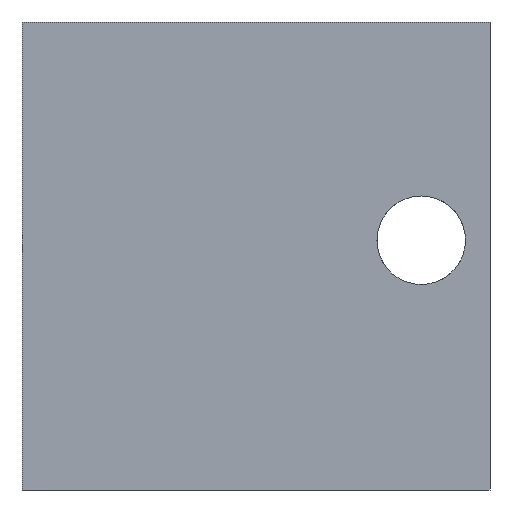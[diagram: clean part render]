
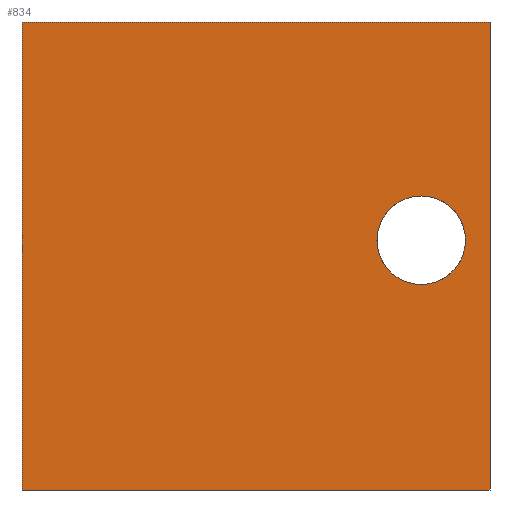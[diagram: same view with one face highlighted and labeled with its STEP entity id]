
A CAD part, left-side view. The second image highlights one B-rep face of the part: STEP entity #834.
In plain terms, the highlighted planar face has unit normal (-1, 0, 0).
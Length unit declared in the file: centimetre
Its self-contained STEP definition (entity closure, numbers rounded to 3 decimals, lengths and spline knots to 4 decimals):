
#18 = ORIENTED_EDGE ( 'NONE', *, *, #1486, .T. ) ;
#77 = CIRCLE ( 'NONE', #1410, 94.5798 ) ;
#129 = CARTESIAN_POINT ( 'NONE',  ( 0., 1000., 0. ) ) ;
#153 = CARTESIAN_POINT ( 'NONE',  ( 0., 1000., 1000. ) ) ;
#160 = FACE_OUTER_BOUND ( 'NONE', #1267, .T. ) ;
#169 = CARTESIAN_POINT ( 'NONE',  ( 0., 1000., 1000. ) ) ;
#205 = ORIENTED_EDGE ( 'NONE', *, *, #285, .F. ) ;
#285 = EDGE_CURVE ( 'NONE', #1182, #423, #1030, .T. ) ;
#340 = CARTESIAN_POINT ( 'NONE',  ( 0., 1000., 1000. ) ) ;
#344 = VERTEX_POINT ( 'NONE', #545 ) ;
#377 = VECTOR ( 'NONE', #1342, 100. ) ;
#423 = VERTEX_POINT ( 'NONE', #1390 ) ;
#439 = DIRECTION ( 'NONE',  ( 0., -1., 0. ) ) ;
#448 = VECTOR ( 'NONE', #908, 100. ) ;
#456 = EDGE_CURVE ( 'NONE', #1097, #1370, #77, .T. ) ;
#470 = CARTESIAN_POINT ( 'NONE',  ( 0., 1000., 1000. ) ) ;
#487 = FACE_BOUND ( 'NONE', #1024, .T. ) ;
#527 = VECTOR ( 'NONE', #626, 100. ) ;
#534 = CARTESIAN_POINT ( 'NONE',  ( 0., 0., 1000. ) ) ;
#545 = CARTESIAN_POINT ( 'NONE',  ( 0., 1000., 0. ) ) ;
#548 = EDGE_CURVE ( 'NONE', #1370, #1097, #602, .T. ) ;
#590 = CARTESIAN_POINT ( 'NONE',  ( 0., 146.9498, 628.2415 ) ) ;
#596 = ORIENTED_EDGE ( 'NONE', *, *, #738, .T. ) ;
#602 = CIRCLE ( 'NONE', #1461, 94.5798 ) ;
#606 = EDGE_CURVE ( 'NONE', #423, #1321, #1459, .T. ) ;
#617 = PLANE ( 'NONE',  #1406 ) ;
#626 = DIRECTION ( 'NONE',  ( 0., 0., -1. ) ) ;
#656 = DIRECTION ( 'NONE',  ( 1., 0., 0. ) ) ;
#738 = EDGE_CURVE ( 'NONE', #344, #1321, #794, .T. ) ;
#775 = CARTESIAN_POINT ( 'NONE',  ( 0., 146.9498, 533.6617 ) ) ;
#794 = LINE ( 'NONE', #129, #448 ) ;
#834 = ADVANCED_FACE ( 'NONE', ( #487, #160 ), #617, .F. ) ;
#869 = VECTOR ( 'NONE', #439, 100. ) ;
#908 = DIRECTION ( 'NONE',  ( 0., -1., 0. ) ) ;
#935 = DIRECTION ( 'NONE',  ( 1., 0., 0. ) ) ;
#970 = ORIENTED_EDGE ( 'NONE', *, *, #606, .F. ) ;
#975 = CARTESIAN_POINT ( 'NONE',  ( 0., 0., 0. ) ) ;
#986 = DIRECTION ( 'NONE',  ( 1., 0., 0. ) ) ;
#999 = DIRECTION ( 'NONE',  ( 0., 0., -1. ) ) ;
#1018 = CARTESIAN_POINT ( 'NONE',  ( 0., 146.9498, 439.0819 ) ) ;
#1024 = EDGE_LOOP ( 'NONE', ( #1396, #1204 ) ) ;
#1030 = LINE ( 'NONE', #340, #869 ) ;
#1090 = DIRECTION ( 'NONE',  ( 0., 0., -1. ) ) ;
#1097 = VERTEX_POINT ( 'NONE', #1018 ) ;
#1125 = DIRECTION ( 'NONE',  ( 0., 0., -1. ) ) ;
#1182 = VERTEX_POINT ( 'NONE', #153 ) ;
#1204 = ORIENTED_EDGE ( 'NONE', *, *, #548, .T. ) ;
#1214 = LINE ( 'NONE', #169, #527 ) ;
#1267 = EDGE_LOOP ( 'NONE', ( #596, #970, #205, #18 ) ) ;
#1321 = VERTEX_POINT ( 'NONE', #975 ) ;
#1342 = DIRECTION ( 'NONE',  ( 0., 0., -1. ) ) ;
#1370 = VERTEX_POINT ( 'NONE', #590 ) ;
#1390 = CARTESIAN_POINT ( 'NONE',  ( 0., 0., 1000. ) ) ;
#1396 = ORIENTED_EDGE ( 'NONE', *, *, #456, .T. ) ;
#1406 = AXIS2_PLACEMENT_3D ( 'NONE', #470, #935, #1090 ) ;
#1410 = AXIS2_PLACEMENT_3D ( 'NONE', #1463, #986, #999 ) ;
#1459 = LINE ( 'NONE', #534, #377 ) ;
#1461 = AXIS2_PLACEMENT_3D ( 'NONE', #775, #656, #1125 ) ;
#1463 = CARTESIAN_POINT ( 'NONE',  ( 0., 146.9498, 533.6617 ) ) ;
#1486 = EDGE_CURVE ( 'NONE', #1182, #344, #1214, .T. ) ;
